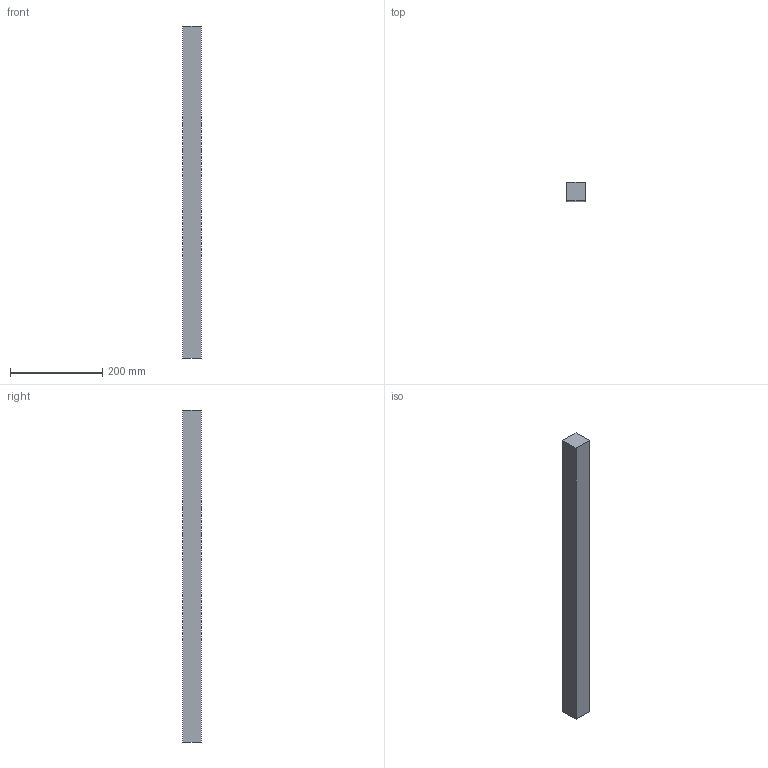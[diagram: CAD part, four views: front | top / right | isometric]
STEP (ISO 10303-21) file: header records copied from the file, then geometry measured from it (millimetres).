
FILE_DESCRIPTION(('Open CASCADE Model'),'2;1');
FILE_NAME('Open CASCADE Shape Model','2026-10-28T20:18:22',('Author'),( 'Open CASCADE'),'Open CASCADE STEP processor 7.8','Open CASCADE 7.8' ,'Unknown');
FILE_SCHEMA(('AUTOMOTIVE_DESIGN { 1 0 10303 214 1 1 1 1 }'));
Length unit declared in the file: millimetre
Products named in the file (1): Open CASCADE STEP translator 7.8 5
Bounding box: 40 x 40 x 720 mm (x, y, z)
Volume: 1152000 mm3; surface area: 118400 mm2
Topology: 1 solids, 1 shells, 6 faces, 12 edges, 8 vertices
Faces by surface type: plane 6
Entity records: 322 total; most frequent: CARTESIAN_POINT 51, DIRECTION 50, LINE 36, VECTOR 36, ORIENTED_EDGE 24, PCURVE 24, DEFINITIONAL_REPRESENTATION 24, EDGE_CURVE 12
